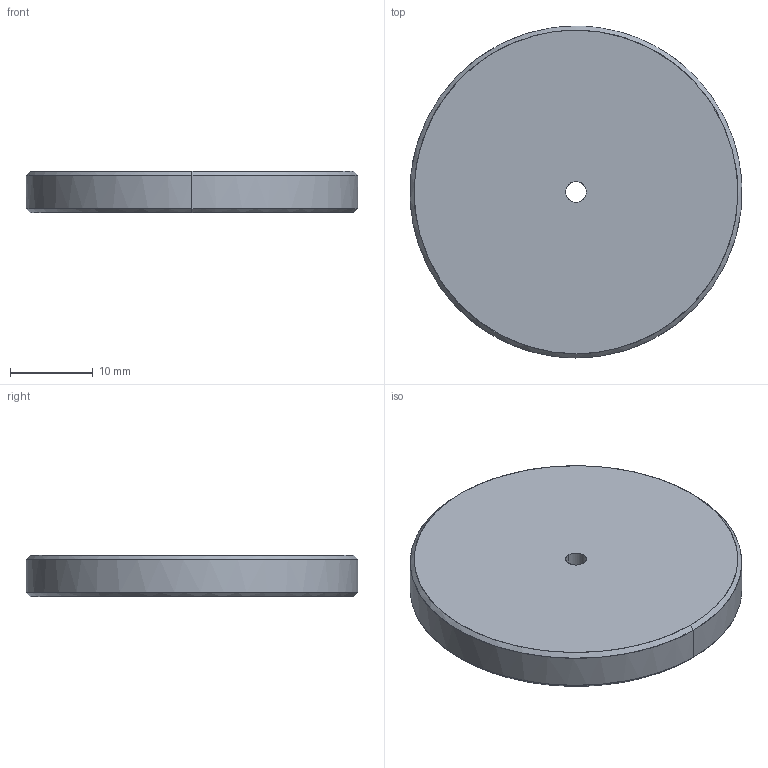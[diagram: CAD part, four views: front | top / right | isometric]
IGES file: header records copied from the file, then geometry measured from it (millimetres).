
Global section: file name: E:\UnigraphicsGraphicData\MISUMI_PRESS-PARTS\IGES\3d_fwss-d40-v2.5-t5.0_00540_r00.igs; native system: NX V5.0; preprocessor: UGS NX IGES V5.0; author: MISUMI; date: 20110105.160701; units: millimetre
Bounding box: 39.95 x 40 x 5 mm (x, y, z)
Surface area: 3097.2 mm2 (no closed solid volume)
Topology: 0 solids, 0 shells, 10 faces, 80 edges, 80 vertices
Faces by surface type: bspline 10
